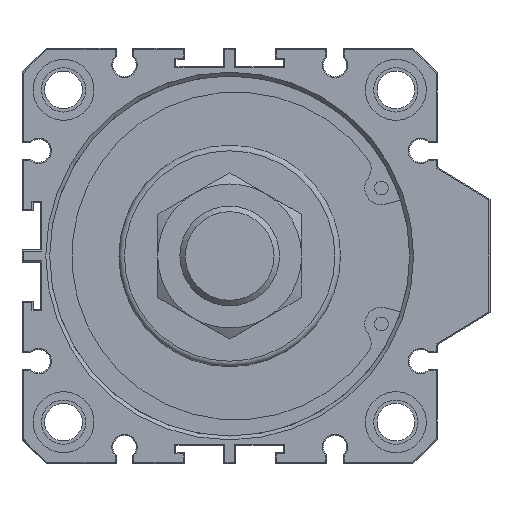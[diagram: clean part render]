
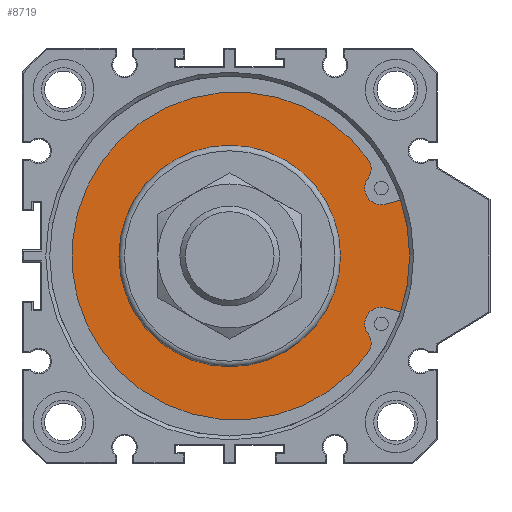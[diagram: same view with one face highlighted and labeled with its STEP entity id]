
A CAD part, front view. The second image highlights one B-rep face of the part: STEP entity #8719.
In plain terms, the highlighted planar face has unit normal (0, -1, 0).
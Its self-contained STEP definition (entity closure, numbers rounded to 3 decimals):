
#366=CIRCLE('',#9278,34.);
#367=CIRCLE('',#9280,3.015);
#368=CIRCLE('',#9281,3.015);
#369=CIRCLE('',#9282,29.6);
#370=CIRCLE('',#9283,3.015);
#371=CIRCLE('',#9284,3.015);
#372=CIRCLE('',#9285,20.);
#1097=ORIENTED_EDGE('',*,*,#2593,.T.);
#1098=ORIENTED_EDGE('',*,*,#2594,.T.);
#1099=ORIENTED_EDGE('',*,*,#2595,.T.);
#1100=ORIENTED_EDGE('',*,*,#2596,.T.);
#1101=ORIENTED_EDGE('',*,*,#2597,.T.);
#1102=ORIENTED_EDGE('',*,*,#2598,.T.);
#1103=ORIENTED_EDGE('',*,*,#2599,.T.);
#1104=ORIENTED_EDGE('',*,*,#2591,.F.);
#1105=ORIENTED_EDGE('',*,*,#2600,.T.);
#2591=EDGE_CURVE('',#3312,#3313,#366,.T.);
#2593=EDGE_CURVE('',#3312,#3314,#3754,.T.);
#2594=EDGE_CURVE('',#3314,#3315,#367,.T.);
#2595=EDGE_CURVE('',#3315,#3316,#368,.T.);
#2596=EDGE_CURVE('',#3316,#3317,#369,.T.);
#2597=EDGE_CURVE('',#3317,#3318,#370,.T.);
#2598=EDGE_CURVE('',#3318,#3319,#371,.T.);
#2599=EDGE_CURVE('',#3319,#3313,#3755,.T.);
#2600=EDGE_CURVE('',#3320,#3320,#372,.T.);
#3312=VERTEX_POINT('',#12478);
#3313=VERTEX_POINT('',#12480);
#3314=VERTEX_POINT('',#12484);
#3315=VERTEX_POINT('',#12486);
#3316=VERTEX_POINT('',#12488);
#3317=VERTEX_POINT('',#12490);
#3318=VERTEX_POINT('',#12492);
#3319=VERTEX_POINT('',#12494);
#3320=VERTEX_POINT('',#12497);
#3754=LINE('',#12483,#4340);
#3755=LINE('',#12495,#4341);
#4340=VECTOR('',#10566,1000.);
#4341=VECTOR('',#10577,1000.);
#4752=EDGE_LOOP('',(#1097,#1098,#1099,#1100,#1101,#1102,#1103,#1104));
#4753=EDGE_LOOP('',(#1105));
#5230=FACE_BOUND('',#4752,.T.);
#5231=FACE_BOUND('',#4753,.T.);
#5592=PLANE('',#9279);
#8719=ADVANCED_FACE('',(#5230,#5231),#5592,.T.);
#9278=AXIS2_PLACEMENT_3D('',#12479,#10561,#10562);
#9279=AXIS2_PLACEMENT_3D('',#12482,#10564,#10565);
#9280=AXIS2_PLACEMENT_3D('',#12485,#10567,#10568);
#9281=AXIS2_PLACEMENT_3D('',#12487,#10569,#10570);
#9282=AXIS2_PLACEMENT_3D('',#12489,#10571,#10572);
#9283=AXIS2_PLACEMENT_3D('',#12491,#10573,#10574);
#9284=AXIS2_PLACEMENT_3D('',#12493,#10575,#10576);
#9285=AXIS2_PLACEMENT_3D('',#12496,#10578,#10579);
#10561=DIRECTION('',(0.,1.,0.));
#10562=DIRECTION('',(-1.,0.,0.));
#10564=DIRECTION('',(0.,-1.,0.));
#10565=DIRECTION('',(1.,0.,0.));
#10566=DIRECTION('',(-0.966,0.,-0.259));
#10567=DIRECTION('',(0.,1.,0.));
#10568=DIRECTION('',(1.,0.,0.));
#10569=DIRECTION('',(0.,-1.,0.));
#10570=DIRECTION('',(-1.,0.,0.));
#10571=DIRECTION('',(0.,-1.,0.));
#10572=DIRECTION('',(1.,0.,0.));
#10573=DIRECTION('',(0.,-1.,0.));
#10574=DIRECTION('',(-1.,0.,0.));
#10575=DIRECTION('',(0.,1.,0.));
#10576=DIRECTION('',(1.,0.,0.));
#10577=DIRECTION('',(0.966,0.,-0.259));
#10578=DIRECTION('',(0.,1.,0.));
#10579=DIRECTION('',(-1.,0.,0.));
#12478=CARTESIAN_POINT('',(32.347,5.2,10.472));
#12479=CARTESIAN_POINT('',(0.,5.2,0.));
#12480=CARTESIAN_POINT('',(32.347,5.2,-10.472));
#12482=CARTESIAN_POINT('',(0.,5.2,-34.));
#12483=CARTESIAN_POINT('',(32.347,5.2,10.472));
#12484=CARTESIAN_POINT('',(28.176,5.2,9.354));
#12485=CARTESIAN_POINT('',(27.396,5.2,12.266));
#12486=CARTESIAN_POINT('',(25.131,5.2,14.255));
#12487=CARTESIAN_POINT('',(22.522,5.2,15.766));
#12488=CARTESIAN_POINT('',(25.115,5.2,17.305));
#12489=CARTESIAN_POINT('',(1.1,5.2,0.));
#12490=CARTESIAN_POINT('',(25.115,5.2,-17.305));
#12491=CARTESIAN_POINT('',(22.522,5.2,-15.766));
#12492=CARTESIAN_POINT('',(25.131,5.2,-14.255));
#12493=CARTESIAN_POINT('',(27.396,5.2,-12.266));
#12494=CARTESIAN_POINT('',(28.176,5.2,-9.354));
#12495=CARTESIAN_POINT('',(28.176,5.2,-9.354));
#12496=CARTESIAN_POINT('',(0.,5.2,0.));
#12497=CARTESIAN_POINT('',(-20.,5.2,0.));
